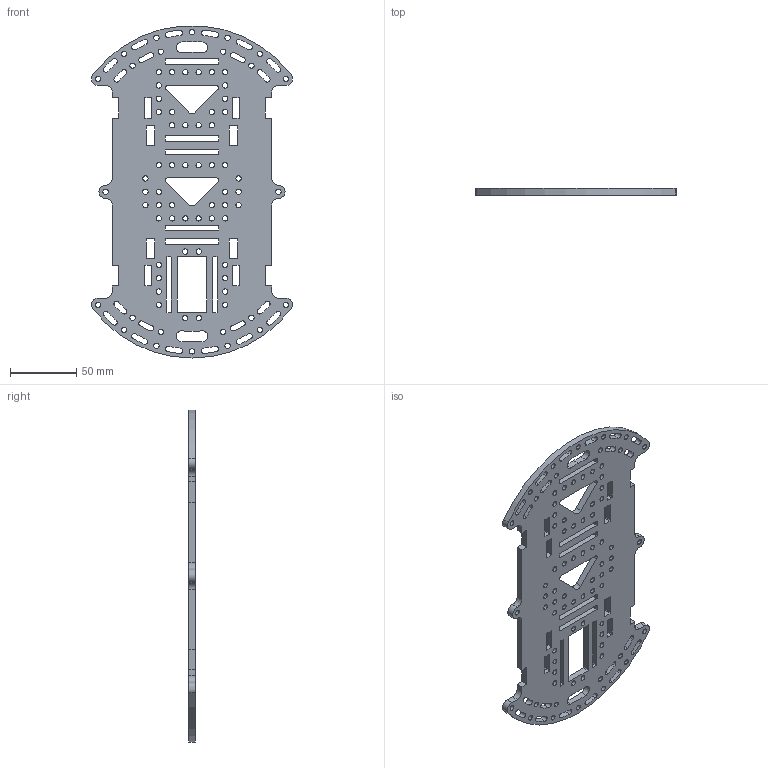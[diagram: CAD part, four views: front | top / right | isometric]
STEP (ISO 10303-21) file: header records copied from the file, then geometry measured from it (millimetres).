
FILE_DESCRIPTION (( 'STEP AP214' ), '1' );
FILE_NAME ('Part3.printable2.STEP', '2022-05-24T20:11:44', ( '' ), ( '' ), 'SwSTEP 2.0', 'SolidWorks 2021', '' );
FILE_SCHEMA (( 'AUTOMOTIVE_DESIGN' ));
Length unit declared in the file: millimetre
Products named in the file (1): Part3.printable2
Bounding box: 151.1 x 5 x 249.67 mm (x, y, z)
Volume: 115734.2 mm3; surface area: 65144 mm2
Topology: 1 solids, 1 shells, 451 faces, 1347 edges, 898 vertices
Faces by surface type: cylinder 355, plane 96
Entity records: 16057 total; most frequent: DIRECTION 2961, CARTESIAN_POINT 2697, ORIENTED_EDGE 2694, EDGE_CURVE 1347, AXIS2_PLACEMENT_3D 1162, VERTEX_POINT 898, CIRCLE 710, EDGE_LOOP 687
